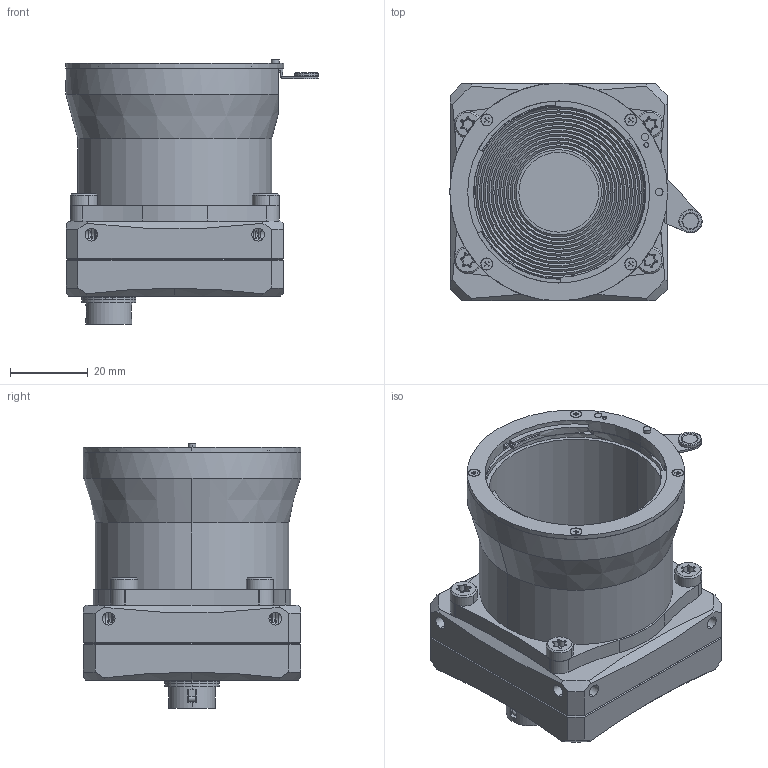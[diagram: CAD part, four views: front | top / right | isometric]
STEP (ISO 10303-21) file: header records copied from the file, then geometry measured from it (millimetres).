
FILE_DESCRIPTION (( 'STEP AP214' ), '1' );
FILE_NAME ('Celera_one_F-mount.STEP', '2020-07-14T08:30:44', ( '' ), ( '' ), 'SwSTEP 2.0', 'SolidWorks 2019', '' );
FILE_SCHEMA (( 'AUTOMOTIVE_DESIGN' ));
Length unit declared in the file: millimetre
Products named in the file (10): Rear_mec_shell_single_usb; Front_Mec_shell; Vite_M2; Usb; Vite_M4_M4 x 08; Filtro; Light_pipe; F-mount; Celera_one_F-mount; I-O
Assembly tree (15 placements, depth 2):
  Celera_one_F-mount
    Front_Mec_shell
    Rear_mec_shell_single_usb
    Usb
    I-O
    Filtro
    Vite_M2  x4
    Vite_M4_M4 x 08  x4
    Light_pipe
    F-mount
Bounding box: 65.1 x 56.2 x 68.2 mm (x, y, z)
Volume: 80347 mm3; surface area: 41492.1 mm2
Topology: 22 solids, 22 shells, 1526 faces, 3747 edges, 2327 vertices
Faces by surface type: plane 677, cylinder 471, cone 330, torus 38, bspline 10
Entity records: 50301 total; most frequent: CARTESIAN_POINT 8681, DIRECTION 7139, ORIENTED_EDGE 6672, EDGE_CURVE 3336, AXIS2_PLACEMENT_3D 2608, VERTEX_POINT 2087, VECTOR 1923, LINE 1923
